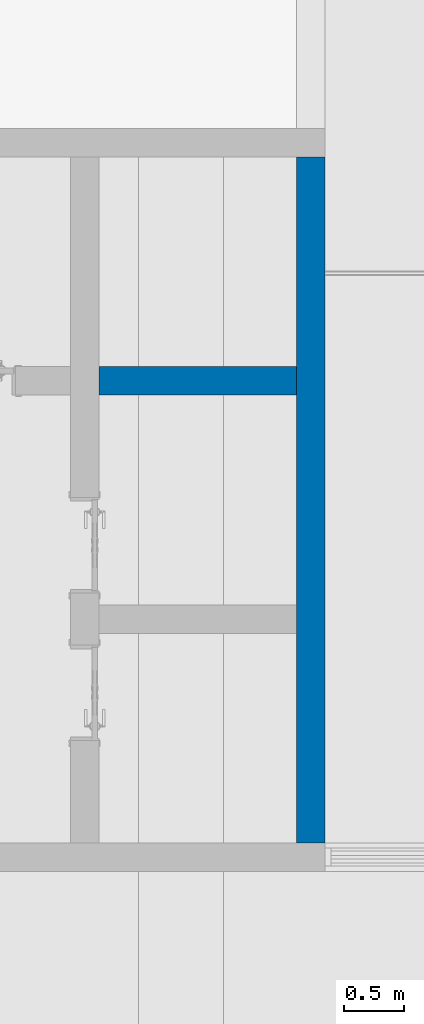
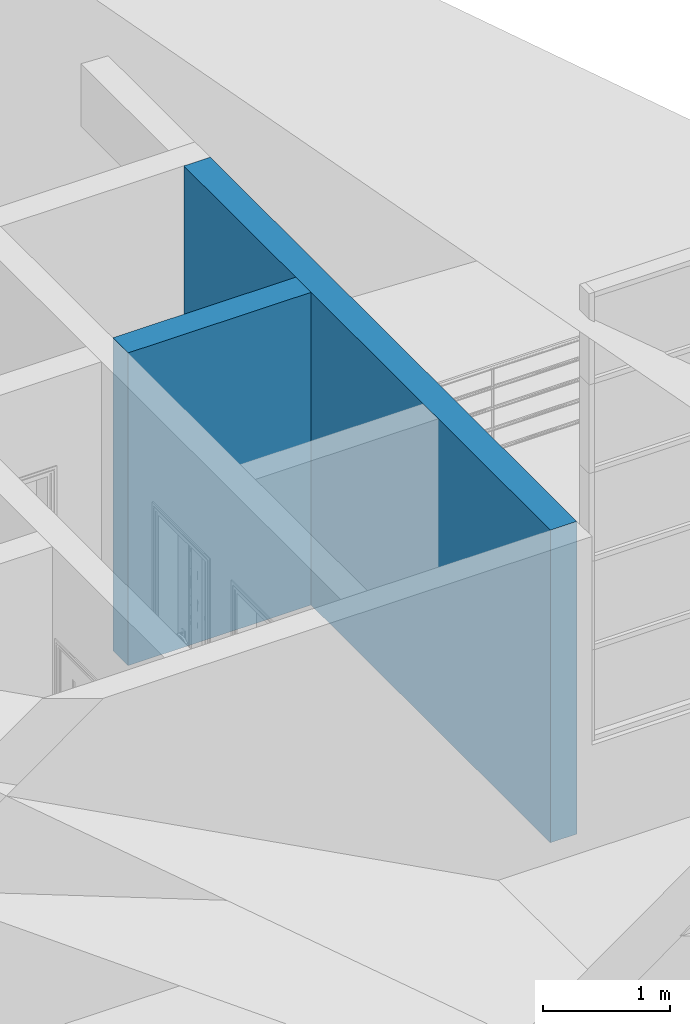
# One storey, part 66 of 82: 2 walls.
"""IFC2X3 building model written with IfcOpenShell, lengths in millimetres."""

from ifc_helpers import new_model, entity, si_unit, converted_unit, derived_unit, direction, frame, frame_2d, origin, place, context, subcontext, project, spatial, rectangle, extrude, material, layer, layer_set, layer_usage, type_object, element, save


model = new_model("IFC2X3")

# Units and contexts
model_context = context("Model", 3, precision=0.01, world=origin(), true_north=direction((6.12303176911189e-17, 1.0)))
body_context = subcontext(model_context, "Body", "Model", "MODEL_VIEW")
ifc_project = project(units=[si_unit("LENGTHUNIT", "METRE", prefix="MILLI"), si_unit("AREAUNIT", "SQUARE_METRE"), si_unit("VOLUMEUNIT", "CUBIC_METRE"), converted_unit("PLANEANGLEUNIT", "DEGREE", entity("IfcRatioMeasure", 0.0174532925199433), si_unit("PLANEANGLEUNIT", "RADIAN"), dimensions=[0, 0, 0, 0, 0, 0, 0]), si_unit("MASSUNIT", "GRAM", prefix="KILO"), derived_unit("MASSDENSITYUNIT", [(si_unit("MASSUNIT", "GRAM", prefix="KILO"), 1), (si_unit("LENGTHUNIT", "METRE"), -3)]), si_unit("TIMEUNIT", "SECOND"), si_unit("FREQUENCYUNIT", "HERTZ"), si_unit("THERMODYNAMICTEMPERATUREUNIT", "DEGREE_CELSIUS"), derived_unit("THERMALTRANSMITTANCEUNIT", [(si_unit("MASSUNIT", "GRAM", prefix="KILO"), 1), (si_unit("THERMODYNAMICTEMPERATUREUNIT", "KELVIN"), -1), (si_unit("TIMEUNIT", "SECOND"), -3)]), derived_unit("VOLUMETRICFLOWRATEUNIT", [(si_unit("LENGTHUNIT", "METRE"), 3), (si_unit("TIMEUNIT", "SECOND"), -1)]), si_unit("ELECTRICCURRENTUNIT", "AMPERE"), si_unit("ELECTRICVOLTAGEUNIT", "VOLT"), si_unit("POWERUNIT", "WATT"), si_unit("FORCEUNIT", "NEWTON", prefix="KILO"), si_unit("ILLUMINANCEUNIT", "LUX"), si_unit("LUMINOUSFLUXUNIT", "LUMEN"), si_unit("LUMINOUSINTENSITYUNIT", "CANDELA"), derived_unit("USERDEFINED", [(si_unit("MASSUNIT", "GRAM", prefix="KILO"), -1), (si_unit("LENGTHUNIT", "METRE"), -2), (si_unit("TIMEUNIT", "SECOND"), 3), (si_unit("LUMINOUSFLUXUNIT", "LUMEN"), 1)]), derived_unit("LINEARVELOCITYUNIT", [(si_unit("LENGTHUNIT", "METRE"), 1), (si_unit("TIMEUNIT", "SECOND"), -1)]), si_unit("PRESSUREUNIT", "PASCAL"), derived_unit("USERDEFINED", [(si_unit("LENGTHUNIT", "METRE"), -2), (si_unit("MASSUNIT", "GRAM", prefix="KILO"), 1), (si_unit("TIMEUNIT", "SECOND"), -2)])], contexts=[model_context])

# Site, building, storey
site_placement = place(None, origin())
site = spatial("IfcSite", under=ifc_project, at=site_placement, Name="表面", CompositionType="ELEMENT")
building_placement = place(site_placement, origin())
building = spatial("IfcBuilding", under=site, at=building_placement, CompositionType="ELEMENT")
storey_placement = place(building_placement, origin())
storey = spatial("IfcBuildingStorey", under=building, at=storey_placement, Name="1F", CompositionType="ELEMENT", Elevation=0.0)

# Walls
ifc_material_1 = material(Name="白色涂料")
ifc_layer_1 = layer(ifc_material_1, 10.0)
ifc_material_2 = material(Name="默认墙")
ifc_layer_2 = layer(ifc_material_2, 220.0)
ifc_layer_3 = layer(ifc_material_1, 10.0)
ifc_layer_set = layer_set([ifc_layer_1, ifc_layer_2, ifc_layer_3], Name="基本墙:粉刷墙240")
ifc_layer_usage_1 = layer_usage(ifc_layer_set, "AXIS2", "NEGATIVE", 120.0)
wall_type = type_object("IfcWallType", Name="基本墙:粉刷墙240", PredefinedType="STANDARD", material=ifc_layer_set)
wall_1_placement = place(storey_placement, frame((-6630.24991264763, -2196.86842665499, 0.0), z_axis=(0.0, 0.0, 1.0), x_axis=(0.0, 1.0, 0.0)))
element("IfcWallStandardCase", 1, at=wall_1_placement, inside=storey, type_object=wall_type, material=ifc_layer_usage_1, Name="基本墙:粉刷墙240", ObjectType="基本墙:粉刷墙240", context=body_context, shape_type="SweptSolid", body=[
    extrude(rectangle(XDim=5759.99999999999, YDim=240.0, at=frame_2d((2880.0, -1.91846538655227e-13), x_axis=(-1.0, 0.0))), origin(), (0.0, 0.0, 1.0), 3000.00000000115),
])
ifc_layer_usage_2 = layer_usage(ifc_layer_set, "AXIS2", "NEGATIVE", 120.0)
wall_2_placement = place(storey_placement, frame((-8410.24991264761, 1683.13157334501, 0.0)))
element("IfcWallStandardCase", 2, at=wall_2_placement, inside=storey, type_object=wall_type, material=ifc_layer_usage_2, Name="基本墙:粉刷墙240", ObjectType="基本墙:粉刷墙240", context=body_context, shape_type="SweptSolid", body=[
    extrude(rectangle(XDim=1659.99999999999, YDim=240.0, at=frame_2d((829.999999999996, -1.13686837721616e-13), x_axis=(-1.0, 0.0))), origin(), (0.0, 0.0, 1.0), 3000.00000000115),
])

save(model, "model.ifc")
